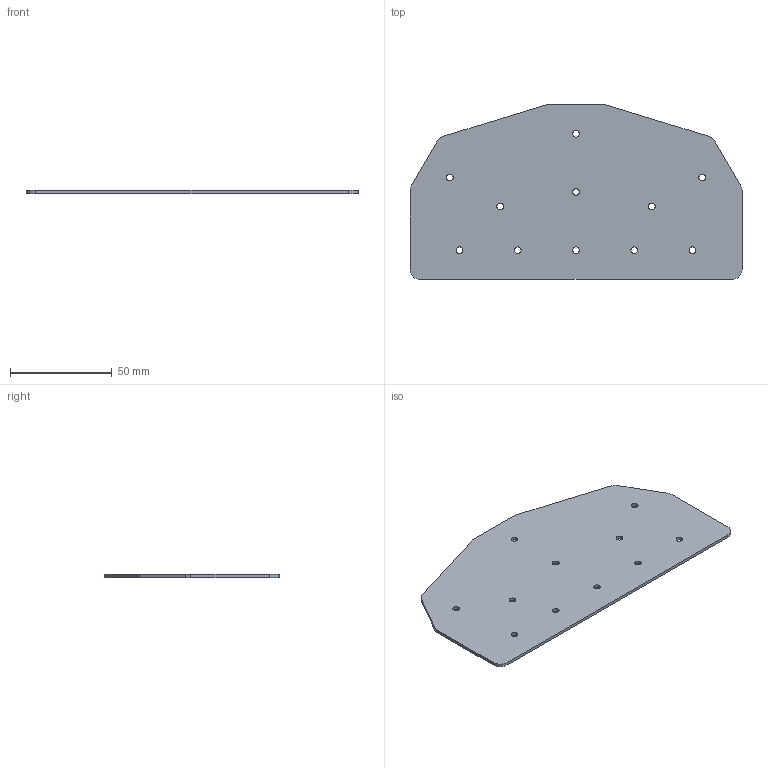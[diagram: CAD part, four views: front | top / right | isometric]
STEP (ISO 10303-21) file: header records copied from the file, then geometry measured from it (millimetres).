
FILE_DESCRIPTION (( 'STEP AP203' ), '1' );
FILE_NAME ('FDPGK-S_1-WTEE60.step', '2019-09-11T19:48:53', ( 'ydmin' ), ( '' ), 'SwSTEP 2.0', 'SolidWorks 2017', '' );
FILE_SCHEMA (( 'CONFIG_CONTROL_DESIGN' ));
Length unit declared in the file: inch
Products named in the file (1): FDPGK-S_1-WTEE60
Bounding box: 162.77 x 85.72 x 1.52 mm (x, y, z)
Volume: 18555.7 mm3; surface area: 25201.7 mm2
Topology: 1 solids, 1 shells, 40 faces, 114 edges, 76 vertices
Faces by surface type: cylinder 30, plane 10
Entity records: 1461 total; most frequent: DIRECTION 256, CARTESIAN_POINT 231, ORIENTED_EDGE 228, EDGE_CURVE 114, AXIS2_PLACEMENT_3D 101, VERTEX_POINT 76, EDGE_LOOP 62, CIRCLE 60
